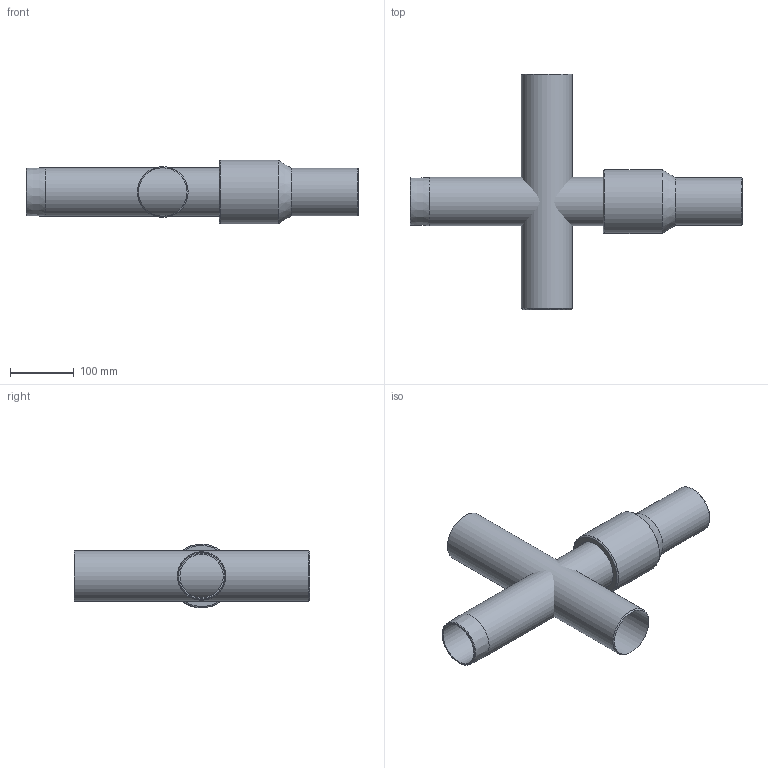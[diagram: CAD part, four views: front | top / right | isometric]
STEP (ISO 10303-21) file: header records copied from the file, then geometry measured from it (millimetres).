
FILE_DESCRIPTION(/* description */ ('Unknown'),/* implementation_level */ '2;1');
FILE_NAME(/* name */ 'RTFZRP075C',/* time_stamp */ '2022-04-27T09:06:43+02:00',/* author */ ('Unknown'),/* organization */ ('Unknown'),/* preprocessor_version */ 'ST-DEVELOPER v18.1',/* originating_system */ 'Solid Edge',/* authorisation */ 'Unknown');
FILE_SCHEMA (('AUTOMOTIVE_DESIGN {1 0 10303 214 3 1 1}'));
Length unit declared in the file: millimetre
Products named in the file (4): RTFZRP075C; Partea ACCIAIO; copertura tubo; Parte PE__oa_0
Assembly tree (3 placements, depth 2):
  RTFZRP075C
    Partea ACCIAIO
    copertura tubo
    Parte PE__oa_0
Bounding box: 522 x 369.8 x 100.31 mm (x, y, z)
Volume: 1001844.9 mm3; surface area: 478490.4 mm2
Topology: 3 solids, 3 shells, 44 faces, 92 edges, 62 vertices
Faces by surface type: plane 13, cylinder 13, bspline 12, cone 4, torus 2
Full cylindrical faces by diameter (mm): 61.4 x1, 68.1 x1, 75 x1, 76.1 x2, 79.7 x2, 100.4 x1
Entity records: 2202 total; most frequent: CARTESIAN_POINT 1320, DIRECTION 136, ORIENTED_EDGE 118, EDGE_LOOP 80, FACE_BOUND 80, AXIS2_PLACEMENT_3D 63, EDGE_CURVE 59, VERTEX_POINT 51
